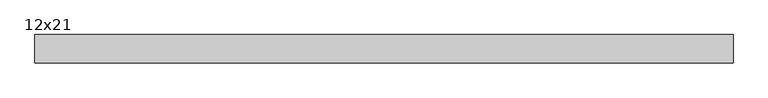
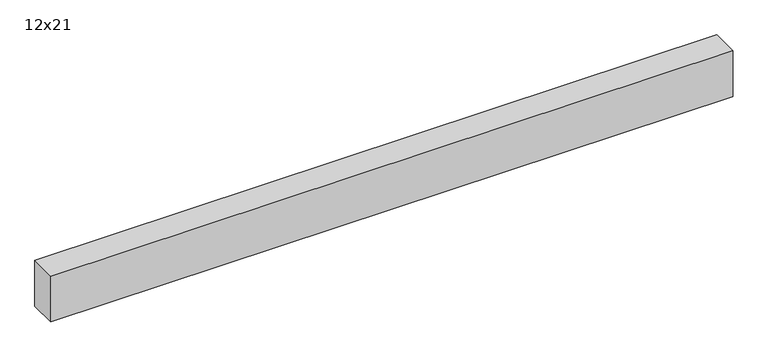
"""IFC4 building model written with IfcOpenShell, lengths in millimetres: beam geometry, C&L poutre bois : 12x21."""

from ifc_helpers import new_model, si_unit, frame, origin, place, context, project, spatial, polyline, outline, extrude, source, transform, mapped, element, save


def beam_12x21_8c95d50e(model_context):
    return source(origin(), model_context, "Body", "SweptSolid", [
        extrude(outline(polyline([(1480.0, 60.0), (1480.0, -60.0), (-1480.0, -60.0), (-1480.0, 60.0), (1480.0, 60.0)])), frame((0.0, 0.0, -105.0), z_axis=(0.0, 0.0, 1.0), x_axis=(1.0, 0.0, 0.0)), (0.0, 0.0, 1.0), 210.0),
    ])


if __name__ == "__main__":
    model = new_model("IFC4")
    model_context = context("Model", 3, world=origin())
    ifc_project = project(units=[si_unit("LENGTHUNIT", "METRE", prefix="MILLI")], contexts=[model_context])
    site = spatial("IfcSite", under=ifc_project)
    building = spatial("IfcBuilding", under=site)
    placement = place(None, origin())
    beam_12x21_shape = beam_12x21_8c95d50e(model_context)
    element("IfcBeam", 1, ObjectType="C&L poutre bois : 12x21", at=placement, inside=building, context=model_context, shape_type="MappedRepresentation", body=[
        mapped(beam_12x21_shape, transform((0.0, 0.0, 0.0), x_axis=(1.0, 0.0, 0.0), y_axis=(0.0, 1.0, 0.0), z_axis=(0.0, 0.0, 1.0))),
    ])
    save(model, "model.ifc")
